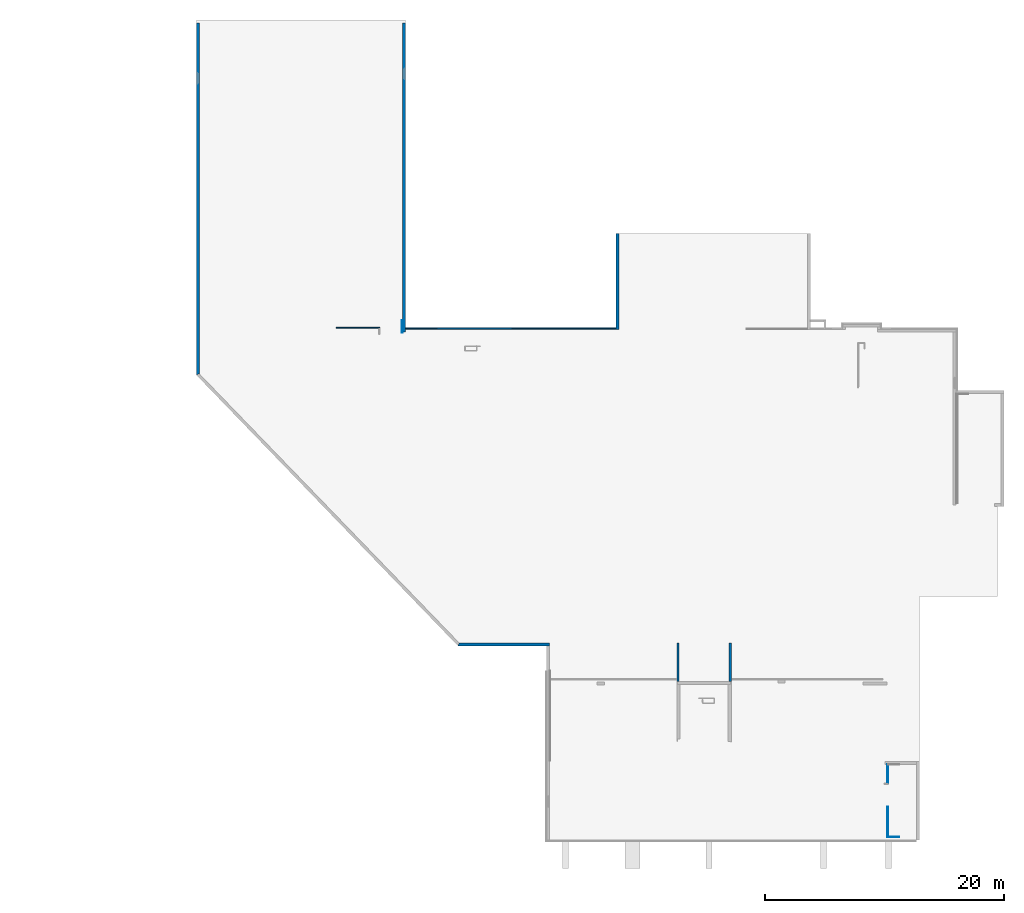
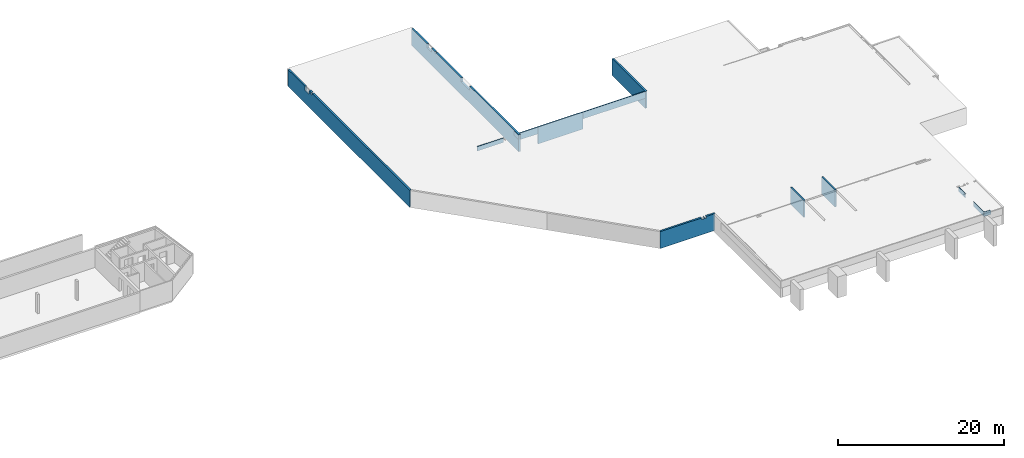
# One storey, part 4 of 10: 14 walls, 9 openings.
"""IFC2X3 building model written with IfcOpenShell, lengths in millimetres."""

from ifc_helpers import new_model, entity, si_unit, converted_unit, frame, frame_2d, origin, origin_with_axes, place, context, subcontext, project, spatial, polyline, rectangle, outline, extrude, faceted_brep, material, layer, layer_set, layer_usage, element, save


model = new_model("IFC2X3")

# Units and contexts
model_context = context("Model", 3, precision=1e-05, world=origin())
body_context = subcontext(model_context, "Body", "Model", "MODEL_VIEW")
ifc_project = project(units=[si_unit("LENGTHUNIT", "METRE", prefix="MILLI"), converted_unit("PLANEANGLEUNIT", "DEGREE", entity("IfcPlaneAngleMeasure", 0.0174532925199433), si_unit("PLANEANGLEUNIT", "RADIAN"), dimensions=[0, 0, 0, 0, 0, 0, 0]), si_unit("AREAUNIT", "SQUARE_METRE"), si_unit("VOLUMEUNIT", "CUBIC_METRE")], contexts=[model_context])

# Building, storey
building_placement = place(None, origin())
building = spatial("IfcBuilding", under=ifc_project, at=building_placement, Name="Gebäude", CompositionType="ELEMENT")
storey_placement = place(building_placement, frame((0.0, 0.0, -3205.0), z_axis=(0.0, 0.0, 1.0), x_axis=(1.0, 0.0, 0.0)))
storey = spatial("IfcBuildingStorey", under=building, at=storey_placement, Name="KG.- Grundriss", CompositionType="ELEMENT", Elevation=-3205.0)

# Walls
ifc_material_1 = material(Name="<Unnamed Material>")
ifc_layer_1 = layer(ifc_material_1, 60.0)
ifc_layer_set_1 = layer_set([ifc_layer_1])
ifc_layer_usage_1 = layer_usage(ifc_layer_set_1, "AXIS2", "POSITIVE", 0.0)
wall_1_placement = place(storey_placement, frame((270632.7052904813, 91445.06618296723, 5055.0), z_axis=(0.0, 0.0, 1.0), x_axis=(-3.637978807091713e-14, -1.0, 0.0)))
element("IfcWallStandardCase", 1, at=wall_1_placement, inside=storey, material=ifc_layer_usage_1, Name="<Unnamed Element>", context=body_context, shape_type="SweptSolid", body=[
    extrude(rectangle(XDim=1600.0, YDim=60.0, at=frame_2d((800.0, 30.0), x_axis=(1.0, 0.0))), origin_with_axes(), (0.0, 0.0, 1.0), 650.0),
])
ifc_material_2 = material(Name="<Unnamed Material>")
ifc_layer_2 = layer(ifc_material_2, 60.0)
ifc_layer_set_2 = layer_set([ifc_layer_2])
ifc_layer_usage_2 = layer_usage(ifc_layer_set_2, "AXIS2", "POSITIVE", 0.0)
wall_2_placement = place(storey_placement, frame((270632.7052904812, 85345.06618296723, 5055.0), z_axis=(0.0, 0.0, 1.0), x_axis=(1.0, 0.0, 0.0)))
element("IfcWallStandardCase", 2, at=wall_2_placement, inside=storey, material=ifc_layer_usage_2, Name="<Unnamed Element>", context=body_context, shape_type="SweptSolid", body=[
    extrude(rectangle(XDim=975.0, YDim=60.0, at=frame_2d((487.5, 30.0), x_axis=(1.0, 0.0))), origin_with_axes(), (0.0, 0.0, 1.0), 650.0),
])
ifc_material_3 = material(Name="<Unnamed Material>")
ifc_layer_3 = layer(ifc_material_3, 60.0)
ifc_layer_set_3 = layer_set([ifc_layer_3])
ifc_layer_usage_3 = layer_usage(ifc_layer_set_3, "AXIS2", "POSITIVE", 0.0)
wall_3_placement = place(storey_placement, frame((270632.7052904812, 87905.06618296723, 5055.0), z_axis=(0.0, 0.0, 1.0), x_axis=(0.0, -1.0, 0.0)))
element("IfcWallStandardCase", 3, at=wall_3_placement, inside=storey, material=ifc_layer_usage_3, Name="<Unnamed Element>", context=body_context, shape_type="SweptSolid", body=[
    extrude(rectangle(XDim=2500.0, YDim=60.0, at=frame_2d((1250.0, 30.0), x_axis=(1.0, 0.0))), origin_with_axes(), (0.0, 0.0, 1.0), 650.0),
])
ifc_material_4 = material(Name="<Unnamed Material>")
ifc_layer_4 = layer(ifc_material_4, 60.0)
ifc_layer_set_4 = layer_set([ifc_layer_4])
ifc_layer_usage_4 = layer_usage(ifc_layer_set_4, "AXIS2", "POSITIVE", 0.0)
wall_4_placement = place(storey_placement, frame((230107.6842014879, 127495.0661829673, 5055.0), z_axis=(0.0, 0.0, 1.0), x_axis=(0.0, 1.0, 0.0)))
element("IfcWallStandardCase", 4, at=wall_4_placement, inside=storey, material=ifc_layer_usage_4, Name="<Unnamed Element>", context=body_context, shape_type="SweptSolid", body=[
    extrude(rectangle(XDim=1060.0, YDim=60.0, at=frame_2d((530.0, 30.0), x_axis=(1.0, 0.0))), origin_with_axes(), (0.0, 0.0, 1.0), 650.0),
])
ifc_material_5 = material(Name="<Unnamed Material>")
ifc_layer_5 = layer(ifc_material_5, 99.99999999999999)
ifc_layer_set_5 = layer_set([ifc_layer_5])
ifc_layer_usage_5 = layer_usage(ifc_layer_set_5, "AXIS2", "POSITIVE", 0.0)
wall_5_placement = place(storey_placement, frame((224547.7225416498, 127880.0661829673, 5055.0), z_axis=(0.0, 0.0, 1.0), x_axis=(0.9999999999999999, 0.0, 0.0)))
element("IfcWallStandardCase", 5, at=wall_5_placement, inside=storey, material=ifc_layer_usage_5, Name="<Unnamed Element>", context=body_context, shape_type="SweptSolid", body=[
    extrude(rectangle(XDim=3659.961659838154, YDim=99.99999999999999, at=frame_2d((1829.980829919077, 49.99999999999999), x_axis=(1.0, 0.0))), origin_with_axes(), (0.0, 0.0, 1.0), 650.0),
])
ifc_material_6 = material(Name="Stb-Wand")
ifc_layer_6 = layer(ifc_material_6, 200.0)
ifc_layer_set_6 = layer_set([ifc_layer_6])
ifc_layer_usage_6 = layer_usage(ifc_layer_set_6, "AXIS2", "POSITIVE", 0.0)
wall_6_placement = place(storey_placement, frame((257382.7052904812, 101590.06618296, 3205.0), z_axis=(0.0, 0.0, 1.0), x_axis=(0.0, -1.0, 0.0)))
element("IfcWallStandardCase", 6, at=wall_6_placement, inside=storey, material=ifc_layer_usage_6, Name="<Unnamed Element>", context=body_context, shape_type="SweptSolid", body=[
    extrude(rectangle(XDim=3225.000000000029, YDim=200.0, at=frame_2d((1612.500000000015, 100.0), x_axis=(1.0, 0.0))), origin_with_axes(), (0.0, 0.0, 1.0), 2500.0),
])
ifc_material_7 = material(Name="<Unnamed Material>")
ifc_layer_7 = layer(ifc_material_7, 120.0)
ifc_layer_set_7 = layer_set([ifc_layer_7])
ifc_layer_usage_7 = layer_usage(ifc_layer_set_7, "AXIS2", "POSITIVE", 0.0)
wall_7_placement = place(storey_placement, frame((232962.6842014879, 127925.0661829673, 4705.0), z_axis=(0.0, 0.0, 1.0), x_axis=(-1.0, 0.0, 0.0)))
element("IfcWallStandardCase", 7, at=wall_7_placement, inside=storey, material=ifc_layer_usage_7, Name="<Unnamed Element>", context=body_context, shape_type="SweptSolid", body=[
    extrude(rectangle(XDim=2604.999999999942, YDim=120.0, at=frame_2d((1302.499999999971, 60.0), x_axis=(1.0, 0.0))), origin_with_axes(), (0.0, 0.0, 1.0), 1000.0),
])
ifc_material_8 = material(Name="<Unnamed Material>")
ifc_layer_8 = layer(ifc_material_8, 120.0)
ifc_layer_set_8 = layer_set([ifc_layer_8])
ifc_layer_usage_8 = layer_usage(ifc_layer_set_8, "AXIS2", "POSITIVE", 0.0)
wall_8_placement = place(storey_placement, frame((247922.6842014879, 127925.0661829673, 4705.0), z_axis=(0.0, 0.0, 1.0), x_axis=(-1.0, 0.0, 0.0)))
element("IfcWallStandardCase", 8, at=wall_8_placement, inside=storey, material=ifc_layer_usage_8, Name="<Unnamed Element>", context=body_context, shape_type="SweptSolid", body=[
    extrude(rectangle(XDim=8660.000000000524, YDim=120.0, at=frame_2d((4330.000000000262, 60.0), x_axis=(1.0, 0.0))), origin_with_axes(), (0.0, 0.0, 1.0), 1000.0),
])

# Wall, openings
ifc_material_9 = material(Name="Stb-Wand")
ifc_layer_9 = layer(ifc_material_9, 249.9999999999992)
ifc_layer_set_9 = layer_set([ifc_layer_9])
ifc_layer_usage_9 = layer_usage(ifc_layer_set_9, "AXIS2", "POSITIVE", 0.0)
wall_9_placement = place(storey_placement, frame((212857.6842014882, 153405.0661829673, 3205.0), z_axis=(0.0, 0.0, 1.0), x_axis=(-7.913862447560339e-15, -1.0, 0.0)))
wall_9 = element("IfcWallStandardCase", 9, at=wall_9_placement, inside=storey, material=ifc_layer_usage_9, Name="<Unnamed Element>", context=body_context, shape_type="SweptSolid", body=[
    extrude(outline(polyline([(0.0, 0.0), (29420.60785067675, 0.0), (29319.60129421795, 249.9999999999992), (-1.978465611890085e-12, 250.0), (0.0, 0.0)])), origin_with_axes(), (0.0, 0.0, 1.0), 2500.0),
])
opening_1_placement = place(wall_9_placement, frame((4115.0, -5.820766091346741e-11, 1900.0), z_axis=(0.0, 1.0, 0.0), x_axis=(0.0, 0.0, 1.0)))
element("IfcOpeningElement", 10, at=opening_1_placement, cuts=wall_9, Name="Fensteröffnung", ObjectType="Opening", context=body_context, shape_type="SweptSolid", body=[
    extrude(rectangle(XDim=600.0, YDim=1010.0, at=frame_2d((300.0, 505.0), x_axis=(1.0, 0.0))), origin_with_axes(), (0.0, 0.0, 1.0), 250.0),
])
opening_2_placement = place(wall_9_placement, frame((5609.999996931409, 2.980290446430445e-06, 2250.0), z_axis=(0.0, 1.0, 0.0), x_axis=(0.0, 0.0, 1.0)))
element("IfcOpeningElement", 11, at=opening_2_placement, cuts=wall_9, Name="Wanddurchbruch", ObjectType="Recess", context=body_context, shape_type="SweptSolid", body=[
    extrude(rectangle(XDim=250.0, YDim=200.0, at=frame_2d((125.0, 100.0), x_axis=(1.0, 0.0))), origin_with_axes(), (0.0, 0.0, 1.0), 249.999999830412),
])

ifc_material_10 = material(Name="Stb-Wand")
ifc_layer_10 = layer(ifc_material_10, 250.0)
ifc_layer_set_10 = layer_set([ifc_layer_10])
ifc_layer_usage_10 = layer_usage(ifc_layer_set_10, "AXIS2", "POSITIVE", 0.0)
wall_10_placement = place(storey_placement, frame((230107.6842014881, 153405.0661829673, 3205.0), z_axis=(0.0, 0.0, 1.0), x_axis=(-6.755241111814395e-15, -1.0, 0.0)))
wall_10 = element("IfcWallStandardCase", 12, at=wall_10_placement, inside=storey, material=ifc_layer_usage_10, Name="<Unnamed Element>", context=body_context, shape_type="SweptSolid", body=[
    extrude(rectangle(XDim=25850.00000000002, YDim=250.0, at=frame_2d((12925.00000000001, 125.0), x_axis=(1.0, 0.0))), origin_with_axes(), (0.0, 0.0, 1.0), 2500.0),
])
opening_3_placement = place(wall_10_placement, frame((3740.0, 0.0, 1900.0), z_axis=(0.0, 1.0, 0.0), x_axis=(0.0, 0.0, 1.0)))
element("IfcOpeningElement", 13, at=opening_3_placement, cuts=wall_10, Name="Fensteröffnung", ObjectType="Opening", context=body_context, shape_type="SweptSolid", body=[
    extrude(rectangle(XDim=600.0, YDim=1010.0, at=frame_2d((300.0, 505.0), x_axis=(1.0, 0.0))), origin_with_axes(), (0.0, 0.0, 1.0), 250.0),
])
opening_4_placement = place(wall_10_placement, frame((11975.00000000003, -1.164153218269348e-10, 1900.0), z_axis=(0.0, 1.0, 0.0), x_axis=(0.0, 0.0, 1.0)))
element("IfcOpeningElement", 14, at=opening_4_placement, cuts=wall_10, Name="Fensteröffnung", ObjectType="Opening", context=body_context, shape_type="SweptSolid", body=[
    extrude(rectangle(XDim=600.0, YDim=2050.0, at=frame_2d((300.0, 1025.0), x_axis=(1.0, 0.0))), origin_with_axes(), (0.0, 0.0, 1.0), 250.0),
])
opening_5_placement = place(wall_10_placement, frame((5640.000003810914, 1.490174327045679e-06, 2250.0), z_axis=(0.0, 1.0, 0.0), x_axis=(0.0, 0.0, 1.0)))
element("IfcOpeningElement", 15, at=opening_5_placement, cuts=wall_10, Name="Wanddurchbruch", ObjectType="Recess", context=body_context, shape_type="SweptSolid", body=[
    extrude(rectangle(XDim=250.0, YDim=250.0, at=frame_2d((125.0, 125.0), x_axis=(1.0, 0.0))), origin_with_axes(), (0.0, 0.0, 1.0), 249.999999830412),
])

# Walls
ifc_material_11 = material(Name="Stb-Wand")
ifc_layer_11 = layer(ifc_material_11, 200.0)
ifc_layer_set_11 = layer_set([ifc_layer_11])
ifc_layer_usage_11 = layer_usage(ifc_layer_set_11, "AXIS2", "POSITIVE", 0.0)
wall_11_placement = place(storey_placement, frame((253222.7052908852, 98365.06618296, 3205.0), z_axis=(0.0, 0.0, 1.0), x_axis=(0.0, 1.0, 0.0)))
element("IfcWallStandardCase", 16, at=wall_11_placement, inside=storey, material=ifc_layer_usage_11, Name="<Unnamed Element>", context=body_context, shape_type="SweptSolid", body=[
    extrude(rectangle(XDim=3225.000000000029, YDim=200.0, at=frame_2d((1612.500000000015, 100.0), x_axis=(1.0, 0.0))), origin_with_axes(), (0.0, 0.0, 1.0), 2500.0),
])
ifc_material_12 = material(Name="Stb-Wand")
ifc_layer_12 = layer(ifc_material_12, 250.0)
ifc_layer_set_12 = layer_set([ifc_layer_12])
ifc_layer_usage_12 = layer_usage(ifc_layer_set_12, "AXIS2", "POSITIVE", 0.0)
wall_12_placement = place(storey_placement, frame((248172.6842014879, 127805.0661829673, 3205.0), z_axis=(0.0, 0.0, 1.0), x_axis=(2.182787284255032e-14, 0.9999999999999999, 0.0)))
element("IfcWallStandardCase", 17, at=wall_12_placement, inside=storey, material=ifc_layer_usage_12, Name="<Unnamed Element>", context=body_context, shape_type="SweptSolid", body=[
    extrude(rectangle(XDim=7999.999999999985, YDim=250.0, at=frame_2d((3999.999999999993, 125.0), x_axis=(1.0, 0.0))), origin_with_axes(), (0.0, 0.0, 1.0), 2500.0),
])

# Wall, openings
ifc_material_13 = material(Name="Stb-Wand")
ifc_layer_13 = layer(ifc_material_13, 250.0000000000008)
ifc_layer_set_13 = layer_set([ifc_layer_13])
ifc_layer_usage_13 = layer_usage(ifc_layer_set_13, "AXIS2", "POSITIVE", 0.0)
wall_13_placement = place(storey_placement, frame((242392.726379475, 101590.0661829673, 3205.0), z_axis=(0.0, 0.0, 1.0), x_axis=(-1.0, 7.697910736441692e-15, 0.0)))
wall_13 = element("IfcWallStandardCase", 18, at=wall_13_placement, inside=storey, material=ifc_layer_usage_13, Name="<Unnamed Element>", context=body_context, shape_type="SweptSolid", body=[
    extrude(outline(polyline([(0.0, 0.0), (7561.48816300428, 0.0), (7667.606867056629, 250.0000000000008), (-1.924477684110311e-12, 249.9999999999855), (0.0, 0.0)])), origin_with_axes(), (0.0, 0.0, 1.0), 2500.0),
])
opening_6_placement = place(wall_13_placement, frame((1590.000176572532, 2.56471088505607e-06, 2250.0), z_axis=(0.0, 1.0, 0.0), x_axis=(0.0, 0.0, 1.0)))
element("IfcOpeningElement", 19, at=opening_6_placement, cuts=wall_13, Name="Wanddurchbruch", ObjectType="Recess", context=body_context, shape_type="SweptSolid", body=[
    extrude(rectangle(XDim=250.0, YDim=300.0000000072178, at=frame_2d((125.0, 150.0000000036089), x_axis=(1.0, 0.0))), origin_with_axes(), (0.0, 0.0, 1.0), 249.9999960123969),
])
opening_7_placement = place(wall_13_placement, frame((1590.000176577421, 4.65784381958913e-06, 2249.99), z_axis=(0.0, 1.0, 0.0), x_axis=(0.0, 0.0, 1.0)))
element("IfcOpeningElement", 20, at=opening_7_placement, cuts=wall_13, Name="Wanddurchbruch", ObjectType="Recess", context=body_context, shape_type="Brep", body=[
    faceted_brep([(0.01000000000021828, -4.889443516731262e-09, 249.9999963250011), (0.01000000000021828, -2.037268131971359e-10, 9.999995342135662), (0.01000000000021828, 299.9999999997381, 9.999995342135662), (0.01000000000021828, 299.9999999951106, 249.9999945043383), (250.0100000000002, -2.037268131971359e-10, 9.999995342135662), (250.0100000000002, -4.889443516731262e-09, 249.9999963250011), (250.0100000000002, 299.9999999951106, 249.9999945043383), (250.0100000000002, 299.9999999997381, 9.999995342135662), (0.01000000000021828, -2.037268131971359e-10, 9.999995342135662), (0.01000000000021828, -4.889443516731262e-09, 249.9999963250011), (250.0100000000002, -4.889443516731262e-09, 249.9999963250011), (250.0100000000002, -2.037268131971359e-10, 9.999995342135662), (0.01000000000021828, 299.9999999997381, 9.999995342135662), (0.01000000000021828, -2.037268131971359e-10, 9.999995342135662), (250.0100000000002, -2.037268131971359e-10, 9.999995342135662), (250.0100000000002, 299.9999999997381, 9.999995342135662), (0.01000000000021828, 299.9999999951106, 249.9999945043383), (0.01000000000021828, 299.9999999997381, 9.999995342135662), (250.0100000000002, 299.9999999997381, 9.999995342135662), (250.0100000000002, 299.9999999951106, 249.9999945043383), (0.01000000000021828, -4.889443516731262e-09, 249.9999963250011), (0.01000000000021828, 299.9999999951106, 249.9999945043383), (250.0100000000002, 299.9999999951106, 249.9999945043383), (250.0100000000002, -4.889443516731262e-09, 249.9999963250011)], [[[0, 1, 2, 3]], [[4, 5, 6, 7]], [[8, 9, 10, 11]], [[12, 13, 14, 15]], [[16, 17, 18, 19]], [[20, 21, 22, 23]]], orient=[[False], [False], [False], [False], [False], [False]]),
])
opening_8_placement = place(wall_13_placement, frame((1245.000176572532, 3.267010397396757e-06, 2249.99), z_axis=(0.0, 1.0, 0.0), x_axis=(0.0, 0.0, 1.0)))
element("IfcOpeningElement", 21, at=opening_8_placement, cuts=wall_13, Name="Wanddurchbruch", ObjectType="Recess", context=body_context, shape_type="Brep", body=[
    faceted_brep([(0.01000000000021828, 3.176974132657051e-07, 250.0000004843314), (0.01000000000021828, 1.271837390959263e-08, 9.999996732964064), (0.01000000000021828, 250.0000000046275, 9.999996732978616), (0.01000000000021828, 250.0, 249.9999974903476), (250.0100000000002, 1.271837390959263e-08, 9.999996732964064), (250.0100000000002, 3.176974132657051e-07, 250.0000004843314), (250.0100000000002, 250.0, 249.9999974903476), (250.0100000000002, 250.0000000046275, 9.999996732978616), (0.01000000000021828, 1.271837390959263e-08, 9.999996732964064), (0.01000000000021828, 3.176974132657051e-07, 250.0000004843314), (250.0100000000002, 3.176974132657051e-07, 250.0000004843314), (250.0100000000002, 1.271837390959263e-08, 9.999996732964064), (0.01000000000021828, 250.0000000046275, 9.999996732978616), (0.01000000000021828, 1.271837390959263e-08, 9.999996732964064), (250.0100000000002, 1.271837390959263e-08, 9.999996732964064), (250.0100000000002, 250.0000000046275, 9.999996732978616), (0.01000000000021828, 250.0, 249.9999974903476), (0.01000000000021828, 250.0000000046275, 9.999996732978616), (250.0100000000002, 250.0000000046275, 9.999996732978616), (250.0100000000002, 250.0, 249.9999974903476), (0.01000000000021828, 3.176974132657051e-07, 250.0000004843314), (0.01000000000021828, 250.0, 249.9999974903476), (250.0100000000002, 250.0, 249.9999974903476), (250.0100000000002, 3.176974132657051e-07, 250.0000004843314)], [[[0, 1, 2, 3]], [[4, 5, 6, 7]], [[8, 9, 10, 11]], [[12, 13, 14, 15]], [[16, 17, 18, 19]], [[20, 21, 22, 23]]], orient=[[False], [False], [False], [False], [False], [False]]),
])
opening_9_placement = place(wall_13_placement, frame((1245.000176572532, 1.179901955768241e-06, 2250.0), z_axis=(0.0, 1.0, 0.0), x_axis=(0.0, 0.0, 1.0)))
element("IfcOpeningElement", 22, at=opening_9_placement, cuts=wall_13, Name="Wanddurchbruch", ObjectType="Recess", context=body_context, shape_type="SweptSolid", body=[
    extrude(rectangle(XDim=250.0, YDim=250.0, at=frame_2d((125.0, 125.0), x_axis=(1.0, 0.0))), origin_with_axes(), (0.0, 0.0, 1.0), 249.9999993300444),
])

# Wall
ifc_material_14 = material(Name="<Unnamed Material>")
ifc_layer_14 = layer(ifc_material_14, 120.0)
ifc_layer_set_14 = layer_set([ifc_layer_14])
ifc_layer_usage_14 = layer_usage(ifc_layer_set_14, "AXIS2", "POSITIVE", 0.0)
wall_14_placement = place(storey_placement, frame((239262.6842014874, 127925.0661829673, 3205.0), z_axis=(0.0, 0.0, 1.0), x_axis=(-1.0, 0.0, 0.0)))
element("IfcWallStandardCase", 23, at=wall_14_placement, inside=storey, material=ifc_layer_usage_14, Name="<Unnamed Element>", context=body_context, shape_type="SweptSolid", body=[
    extrude(rectangle(XDim=6299.999999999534, YDim=120.0, at=frame_2d((3149.999999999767, 60.0), x_axis=(1.0, 0.0))), origin_with_axes(), (0.0, 0.0, 1.0), 2500.0),
])

save(model, "model.ifc")
